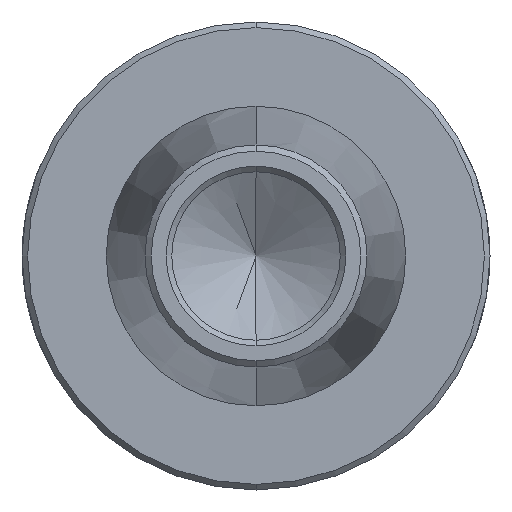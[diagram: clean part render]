
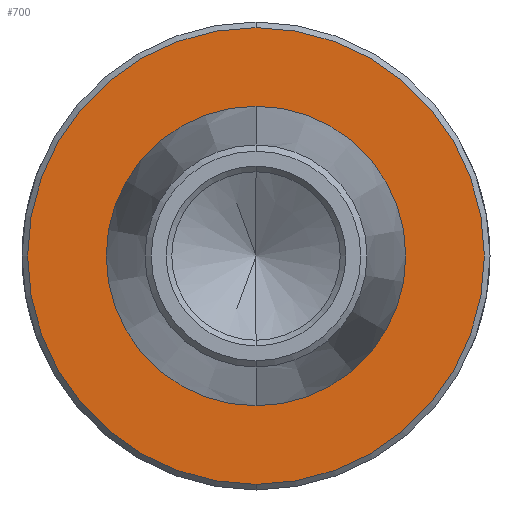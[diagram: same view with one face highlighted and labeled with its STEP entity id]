
A CAD part, front view. The second image highlights one B-rep face of the part: STEP entity #700.
In plain terms, the highlighted planar face has unit normal (0, -1, 0).
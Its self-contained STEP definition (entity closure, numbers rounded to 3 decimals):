
#15 = EDGE_CURVE ( 'NONE', #41, #409, #343, .T. ) ;
#28 = AXIS2_PLACEMENT_3D ( 'NONE', #902, #596, #671 ) ;
#29 = CARTESIAN_POINT ( 'NONE',  ( 0., 3., -12.2 ) ) ;
#41 = VERTEX_POINT ( 'NONE', #585 ) ;
#78 = FACE_OUTER_BOUND ( 'NONE', #530, .T. ) ;
#89 = EDGE_CURVE ( 'NONE', #933, #398, #146, .T. ) ;
#108 = CARTESIAN_POINT ( 'NONE',  ( 0., 3., -8. ) ) ;
#120 = ORIENTED_EDGE ( 'NONE', *, *, #89, .T. ) ;
#142 = FACE_BOUND ( 'NONE', #287, .T. ) ;
#146 = CIRCLE ( 'NONE', #662, 8. ) ;
#201 = ORIENTED_EDGE ( 'NONE', *, *, #649, .T. ) ;
#203 = PLANE ( 'NONE',  #28 ) ;
#209 = DIRECTION ( 'NONE',  ( 0., -1., 0. ) ) ;
#219 = AXIS2_PLACEMENT_3D ( 'NONE', #493, #572, #268 ) ;
#247 = DIRECTION ( 'NONE',  ( 0., 0., 1. ) ) ;
#268 = DIRECTION ( 'NONE',  ( 0., 0., 1. ) ) ;
#287 = EDGE_LOOP ( 'NONE', ( #882, #120 ) ) ;
#343 = CIRCLE ( 'NONE', #219, 12.2 ) ;
#352 = CIRCLE ( 'NONE', #809, 12.2 ) ;
#357 = DIRECTION ( 'NONE',  ( 0., 0., 1. ) ) ;
#398 = VERTEX_POINT ( 'NONE', #108 ) ;
#409 = VERTEX_POINT ( 'NONE', #29 ) ;
#465 = DIRECTION ( 'NONE',  ( 0., 1., 0. ) ) ;
#481 = ORIENTED_EDGE ( 'NONE', *, *, #15, .T. ) ;
#493 = CARTESIAN_POINT ( 'NONE',  ( 0., 3., 0. ) ) ;
#530 = EDGE_LOOP ( 'NONE', ( #481, #201 ) ) ;
#537 = CARTESIAN_POINT ( 'NONE',  ( 0., 3., 0. ) ) ;
#550 = CIRCLE ( 'NONE', #879, 8. ) ;
#572 = DIRECTION ( 'NONE',  ( 0., -1., 0. ) ) ;
#585 = CARTESIAN_POINT ( 'NONE',  ( 0., 3., 12.2 ) ) ;
#596 = DIRECTION ( 'NONE',  ( 0., 1., 0. ) ) ;
#629 = CARTESIAN_POINT ( 'NONE',  ( 0., 3., 8. ) ) ;
#649 = EDGE_CURVE ( 'NONE', #409, #41, #352, .T. ) ;
#662 = AXIS2_PLACEMENT_3D ( 'NONE', #892, #901, #357 ) ;
#671 = DIRECTION ( 'NONE',  ( 0., 0., 1. ) ) ;
#700 = ADVANCED_FACE ( 'NONE', ( #78, #142 ), #203, .F. ) ;
#738 = CARTESIAN_POINT ( 'NONE',  ( 0., 3., 0. ) ) ;
#809 = AXIS2_PLACEMENT_3D ( 'NONE', #738, #209, #986 ) ;
#879 = AXIS2_PLACEMENT_3D ( 'NONE', #537, #465, #247 ) ;
#882 = ORIENTED_EDGE ( 'NONE', *, *, #952, .T. ) ;
#892 = CARTESIAN_POINT ( 'NONE',  ( 0., 3., 0. ) ) ;
#901 = DIRECTION ( 'NONE',  ( 0., 1., 0. ) ) ;
#902 = CARTESIAN_POINT ( 'NONE',  ( 0., 3., 0. ) ) ;
#933 = VERTEX_POINT ( 'NONE', #629 ) ;
#952 = EDGE_CURVE ( 'NONE', #398, #933, #550, .T. ) ;
#986 = DIRECTION ( 'NONE',  ( 0., 0., 1. ) ) ;
